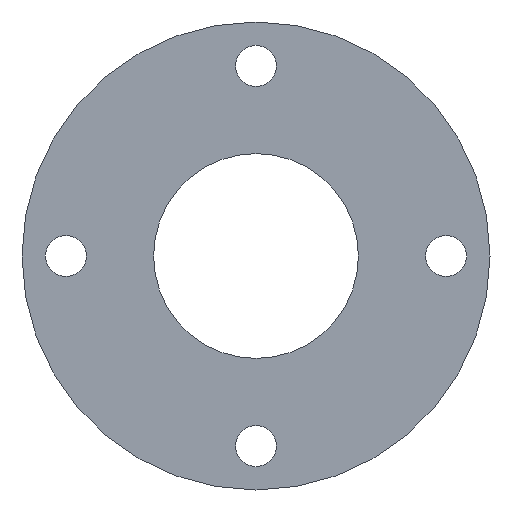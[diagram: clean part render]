
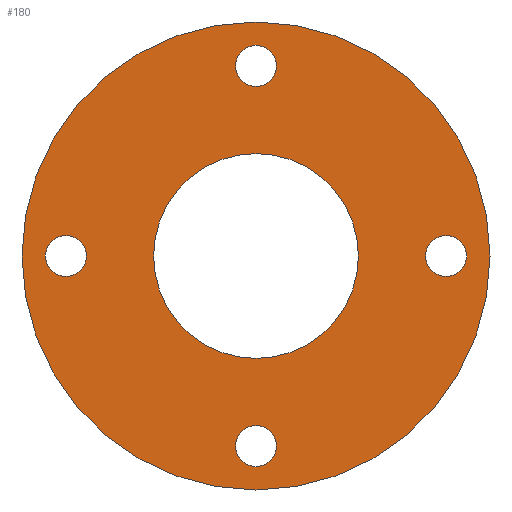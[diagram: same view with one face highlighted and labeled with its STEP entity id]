
A CAD part, left-side view. The second image highlights one B-rep face of the part: STEP entity #180.
In plain terms, the highlighted planar face has unit normal (-1, 0, 0).
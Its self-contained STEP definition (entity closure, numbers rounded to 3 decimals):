
#12 = CIRCLE ( 'NONE', #209, 3.5 ) ;
#25 = CARTESIAN_POINT ( 'NONE',  ( 0., 0., -32.5 ) ) ;
#26 = FACE_BOUND ( 'NONE', #118, .T. ) ;
#31 = CIRCLE ( 'NONE', #492, 17.5 ) ;
#32 = CARTESIAN_POINT ( 'NONE',  ( 0., 32.5, 3.5 ) ) ;
#52 = CIRCLE ( 'NONE', #327, 3.5 ) ;
#58 = VERTEX_POINT ( 'NONE', #208 ) ;
#61 = FACE_BOUND ( 'NONE', #153, .T. ) ;
#62 = AXIS2_PLACEMENT_3D ( 'NONE', #223, #618, #276 ) ;
#63 = AXIS2_PLACEMENT_3D ( 'NONE', #622, #283, #677 ) ;
#68 = DIRECTION ( 'NONE',  ( 1., 0., 0. ) ) ;
#69 = EDGE_LOOP ( 'NONE', ( #614, #536 ) ) ;
#78 = CARTESIAN_POINT ( 'NONE',  ( 0., 0., 29. ) ) ;
#81 = CARTESIAN_POINT ( 'NONE',  ( 0., -32.5, 0. ) ) ;
#86 = CARTESIAN_POINT ( 'NONE',  ( 0., 0., -40. ) ) ;
#98 = AXIS2_PLACEMENT_3D ( 'NONE', #25, #366, #698 ) ;
#100 = AXIS2_PLACEMENT_3D ( 'NONE', #427, #535, #146 ) ;
#118 = EDGE_LOOP ( 'NONE', ( #402, #531 ) ) ;
#136 = ORIENTED_EDGE ( 'NONE', *, *, #391, .T. ) ;
#139 = DIRECTION ( 'NONE',  ( 0., 0., -1. ) ) ;
#142 = EDGE_LOOP ( 'NONE', ( #200, #261 ) ) ;
#146 = DIRECTION ( 'NONE',  ( 0., 0., -1. ) ) ;
#147 = CARTESIAN_POINT ( 'NONE',  ( 0., 0., 32.5 ) ) ;
#153 = EDGE_LOOP ( 'NONE', ( #716, #321 ) ) ;
#158 = CARTESIAN_POINT ( 'NONE',  ( 0., -32.5, 3.5 ) ) ;
#162 = CARTESIAN_POINT ( 'NONE',  ( 0., 0., -17.5 ) ) ;
#165 = CIRCLE ( 'NONE', #167, 40. ) ;
#167 = AXIS2_PLACEMENT_3D ( 'NONE', #253, #650, #313 ) ;
#172 = AXIS2_PLACEMENT_3D ( 'NONE', #241, #637, #299 ) ;
#175 = AXIS2_PLACEMENT_3D ( 'NONE', #403, #68, #459 ) ;
#180 = ADVANCED_FACE ( 'NONE', ( #61, #211, #324, #26, #601, #453 ), #199, .F. ) ;
#188 = DIRECTION ( 'NONE',  ( 0., 0., -1. ) ) ;
#198 = CARTESIAN_POINT ( 'NONE',  ( 0., 0., 17.5 ) ) ;
#199 = PLANE ( 'NONE',  #100 ) ;
#200 = ORIENTED_EDGE ( 'NONE', *, *, #270, .T. ) ;
#201 = DIRECTION ( 'NONE',  ( 0., 0., -1. ) ) ;
#208 = CARTESIAN_POINT ( 'NONE',  ( 0., 0., 36. ) ) ;
#209 = AXIS2_PLACEMENT_3D ( 'NONE', #147, #538, #201 ) ;
#210 = CIRCLE ( 'NONE', #63, 17.5 ) ;
#211 = FACE_BOUND ( 'NONE', #142, .T. ) ;
#217 = ORIENTED_EDGE ( 'NONE', *, *, #377, .F. ) ;
#223 = CARTESIAN_POINT ( 'NONE',  ( 0., 0., 32.5 ) ) ;
#235 = VERTEX_POINT ( 'NONE', #384 ) ;
#239 = EDGE_LOOP ( 'NONE', ( #602, #217 ) ) ;
#240 = CARTESIAN_POINT ( 'NONE',  ( 0., 32.5, 0. ) ) ;
#241 = CARTESIAN_POINT ( 'NONE',  ( 0., 0., -32.5 ) ) ;
#243 = DIRECTION ( 'NONE',  ( 1., 0., 0. ) ) ;
#253 = CARTESIAN_POINT ( 'NONE',  ( 0., 0., 0. ) ) ;
#261 = ORIENTED_EDGE ( 'NONE', *, *, #727, .T. ) ;
#269 = CARTESIAN_POINT ( 'NONE',  ( 0., 0., 40. ) ) ;
#270 = EDGE_CURVE ( 'NONE', #627, #58, #291, .T. ) ;
#272 = VERTEX_POINT ( 'NONE', #269 ) ;
#276 = DIRECTION ( 'NONE',  ( 0., 0., -1. ) ) ;
#279 = AXIS2_PLACEMENT_3D ( 'NONE', #634, #296, #692 ) ;
#283 = DIRECTION ( 'NONE',  ( -1., 0., 0. ) ) ;
#291 = CIRCLE ( 'NONE', #62, 3.5 ) ;
#296 = DIRECTION ( 'NONE',  ( -1., 0., 0. ) ) ;
#299 = DIRECTION ( 'NONE',  ( 0., 0., -1. ) ) ;
#313 = DIRECTION ( 'NONE',  ( 0., 0., 1. ) ) ;
#321 = ORIENTED_EDGE ( 'NONE', *, *, #412, .T. ) ;
#324 = FACE_BOUND ( 'NONE', #451, .T. ) ;
#327 = AXIS2_PLACEMENT_3D ( 'NONE', #81, #478, #139 ) ;
#366 = DIRECTION ( 'NONE',  ( 1., 0., 0. ) ) ;
#377 = EDGE_CURVE ( 'NONE', #386, #713, #31, .T. ) ;
#382 = VERTEX_POINT ( 'NONE', #158 ) ;
#384 = CARTESIAN_POINT ( 'NONE',  ( 0., -32.5, -3.5 ) ) ;
#386 = VERTEX_POINT ( 'NONE', #162 ) ;
#391 = EDGE_CURVE ( 'NONE', #235, #382, #589, .T. ) ;
#393 = ORIENTED_EDGE ( 'NONE', *, *, #635, .T. ) ;
#402 = ORIENTED_EDGE ( 'NONE', *, *, #465, .T. ) ;
#403 = CARTESIAN_POINT ( 'NONE',  ( 0., 32.5, 0. ) ) ;
#406 = CIRCLE ( 'NONE', #98, 3.5 ) ;
#412 = EDGE_CURVE ( 'NONE', #701, #624, #706, .T. ) ;
#415 = CARTESIAN_POINT ( 'NONE',  ( 0., 32.5, -3.5 ) ) ;
#427 = CARTESIAN_POINT ( 'NONE',  ( 0., 40., 0. ) ) ;
#444 = CIRCLE ( 'NONE', #172, 3.5 ) ;
#448 = EDGE_CURVE ( 'NONE', #720, #469, #406, .T. ) ;
#451 = EDGE_LOOP ( 'NONE', ( #136, #393 ) ) ;
#453 = FACE_OUTER_BOUND ( 'NONE', #69, .T. ) ;
#459 = DIRECTION ( 'NONE',  ( 0., 0., -1. ) ) ;
#465 = EDGE_CURVE ( 'NONE', #469, #720, #444, .T. ) ;
#469 = VERTEX_POINT ( 'NONE', #632 ) ;
#478 = DIRECTION ( 'NONE',  ( 1., 0., 0. ) ) ;
#492 = AXIS2_PLACEMENT_3D ( 'NONE', #724, #607, #606 ) ;
#531 = ORIENTED_EDGE ( 'NONE', *, *, #448, .T. ) ;
#535 = DIRECTION ( 'NONE',  ( 1., 0., 0. ) ) ;
#536 = ORIENTED_EDGE ( 'NONE', *, *, #685, .T. ) ;
#538 = DIRECTION ( 'NONE',  ( 1., 0., 0. ) ) ;
#559 = AXIS2_PLACEMENT_3D ( 'NONE', #642, #243, #583 ) ;
#571 = EDGE_CURVE ( 'NONE', #713, #386, #210, .T. ) ;
#577 = DIRECTION ( 'NONE',  ( 1., 0., 0. ) ) ;
#583 = DIRECTION ( 'NONE',  ( 0., 0., -1. ) ) ;
#589 = CIRCLE ( 'NONE', #559, 3.5 ) ;
#595 = EDGE_CURVE ( 'NONE', #624, #701, #657, .T. ) ;
#597 = AXIS2_PLACEMENT_3D ( 'NONE', #240, #577, #188 ) ;
#601 = FACE_BOUND ( 'NONE', #239, .T. ) ;
#602 = ORIENTED_EDGE ( 'NONE', *, *, #571, .F. ) ;
#606 = DIRECTION ( 'NONE',  ( 0., 0., 1. ) ) ;
#607 = DIRECTION ( 'NONE',  ( -1., 0., 0. ) ) ;
#613 = EDGE_CURVE ( 'NONE', #272, #696, #616, .T. ) ;
#614 = ORIENTED_EDGE ( 'NONE', *, *, #613, .T. ) ;
#616 = CIRCLE ( 'NONE', #279, 40. ) ;
#618 = DIRECTION ( 'NONE',  ( 1., 0., 0. ) ) ;
#622 = CARTESIAN_POINT ( 'NONE',  ( 0., 0., 0. ) ) ;
#624 = VERTEX_POINT ( 'NONE', #415 ) ;
#627 = VERTEX_POINT ( 'NONE', #78 ) ;
#632 = CARTESIAN_POINT ( 'NONE',  ( 0., 0., -36. ) ) ;
#634 = CARTESIAN_POINT ( 'NONE',  ( 0., 0., 0. ) ) ;
#635 = EDGE_CURVE ( 'NONE', #382, #235, #52, .T. ) ;
#637 = DIRECTION ( 'NONE',  ( 1., 0., 0. ) ) ;
#642 = CARTESIAN_POINT ( 'NONE',  ( 0., -32.5, 0. ) ) ;
#650 = DIRECTION ( 'NONE',  ( -1., 0., 0. ) ) ;
#657 = CIRCLE ( 'NONE', #175, 3.5 ) ;
#677 = DIRECTION ( 'NONE',  ( 0., 0., 1. ) ) ;
#685 = EDGE_CURVE ( 'NONE', #696, #272, #165, .T. ) ;
#692 = DIRECTION ( 'NONE',  ( 0., 0., 1. ) ) ;
#696 = VERTEX_POINT ( 'NONE', #86 ) ;
#698 = DIRECTION ( 'NONE',  ( 0., 0., -1. ) ) ;
#701 = VERTEX_POINT ( 'NONE', #32 ) ;
#704 = CARTESIAN_POINT ( 'NONE',  ( 0., 0., -29. ) ) ;
#706 = CIRCLE ( 'NONE', #597, 3.5 ) ;
#713 = VERTEX_POINT ( 'NONE', #198 ) ;
#716 = ORIENTED_EDGE ( 'NONE', *, *, #595, .T. ) ;
#720 = VERTEX_POINT ( 'NONE', #704 ) ;
#724 = CARTESIAN_POINT ( 'NONE',  ( 0., 0., 0. ) ) ;
#727 = EDGE_CURVE ( 'NONE', #58, #627, #12, .T. ) ;
